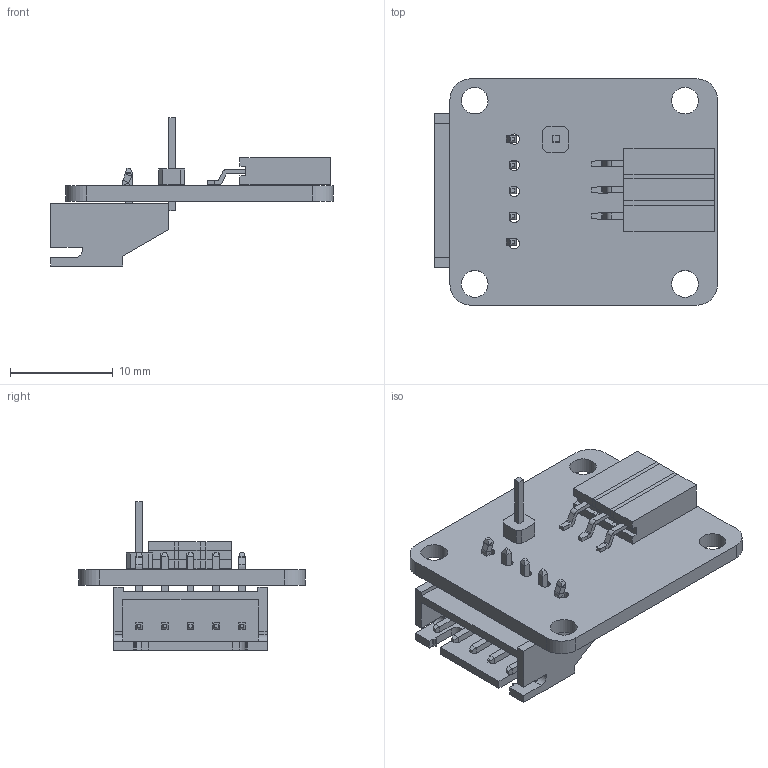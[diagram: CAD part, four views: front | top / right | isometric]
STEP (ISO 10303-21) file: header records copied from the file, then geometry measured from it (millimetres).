
FILE_DESCRIPTION(('KiCad electronic assembly'),'2;1');
FILE_NAME('touch+lightsensor-BREAKOUT BOARD.step','2026-06-06T21:39:18', ('Pcbnew'),('Kicad'),'Open CASCADE STEP processor 7.9', 'KiCad to STEP converter','Unknown');
FILE_SCHEMA(('AUTOMOTIVE_DESIGN { 1 0 10303 214 1 1 1 1 }'));
Length unit declared in the file: millimetre
Products named in the file (11): touch+lightsensor-BREAKOUT BOARD 1; PinSocket-01x03_P2.54mm_Horizontal_SMD; touch+lightsensor-BREAKOUT BOARD 1.1.1; touch+lightsensor-BREAKOUT BOARD 1.1.2; JST 5 pin - S5B-XH-A-1-LF--SN---3DModel-STEP-269445; SxB-XH-Axxxxx_5; pin^SxB-XH-A-1(LF)(SN)_bent; pin^SxB-XH-A-1(LF)(SN); PinHeader-01x01_P2.54mm_Vertical_THT; PinHeader; touch+lightsensor-BREAKOUT BOARD_PCB
Assembly tree (13 placements, depth 3):
  touch+lightsensor-BREAKOUT BOARD 1
    PinSocket-01x03_P2.54mm_Horizontal_SMD
      touch+lightsensor-BREAKOUT BOARD 1.1.1
      touch+lightsensor-BREAKOUT BOARD 1.1.2
    JST 5 pin - S5B-XH-A-1-LF--SN---3DModel-STEP-269445
      SxB-XH-Axxxxx_5
      pin^SxB-XH-A-1(LF)(SN)_bent  x2
      pin^SxB-XH-A-1(LF)(SN)  x3
    PinHeader-01x01_P2.54mm_Vertical_THT
      PinHeader
    touch+lightsensor-BREAKOUT BOARD_PCB
Bounding box: 27.5 x 22 x 14.4 mm (x, y, z)
Volume: 1371.9 mm3; surface area: 2732.8 mm2
Topology: 14 solids, 14 shells, 387 faces, 930 edges, 576 vertices
Faces by surface type: plane 329, cylinder 58
Full cylindrical faces by diameter (mm): 1 x5, 1.4 x1, 2.6 x4
Entity records: 9138 total; most frequent: CARTESIAN_POINT 1545, ORIENTED_EDGE 1504, DIRECTION 1470, EDGE_CURVE 752, LINE 660, VECTOR 660, VERTEX_POINT 480, AXIS2_PLACEMENT_3D 405
